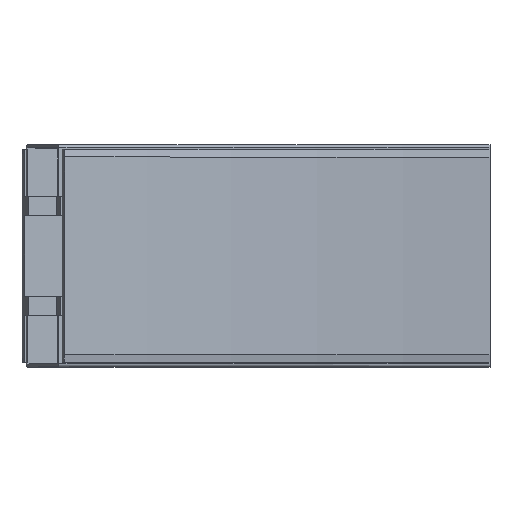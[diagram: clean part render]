
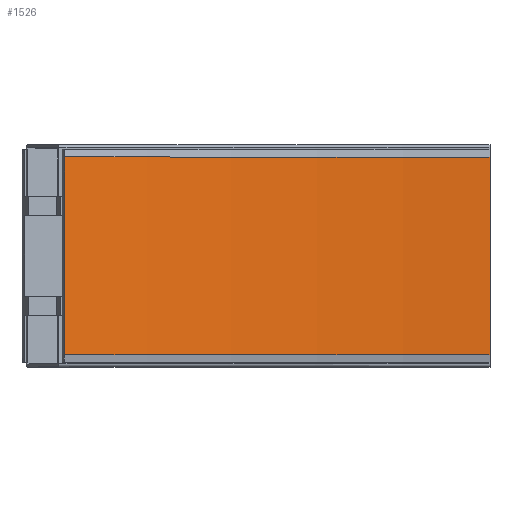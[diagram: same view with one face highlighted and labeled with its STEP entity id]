
A CAD part, top view. The second image highlights one B-rep face of the part: STEP entity #1526.
In plain terms, the highlighted cylindrical face has radius 817.5 mm (diameter 1635 mm), a partial arc.
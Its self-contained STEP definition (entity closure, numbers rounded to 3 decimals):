
#80=CYLINDRICAL_SURFACE('',#1643,817.5);
#149=FACE_OUTER_BOUND('',#236,.T.);
#236=EDGE_LOOP('',(#1052,#1053,#1054,#1055));
#323=CIRCLE('',#1633,817.5);
#328=CIRCLE('',#1642,817.5);
#400=LINE('',#2215,#526);
#401=LINE('',#2216,#527);
#526=VECTOR('',#1808,10.);
#527=VECTOR('',#1809,10.);
#643=VERTEX_POINT('',#2183);
#644=VERTEX_POINT('',#2185);
#652=VERTEX_POINT('',#2209);
#653=VERTEX_POINT('',#2211);
#799=EDGE_CURVE('',#643,#644,#323,.T.);
#813=EDGE_CURVE('',#652,#653,#328,.T.);
#814=EDGE_CURVE('',#643,#652,#400,.T.);
#815=EDGE_CURVE('',#644,#653,#401,.T.);
#1052=ORIENTED_EDGE('',*,*,#814,.T.);
#1053=ORIENTED_EDGE('',*,*,#813,.T.);
#1054=ORIENTED_EDGE('',*,*,#815,.F.);
#1055=ORIENTED_EDGE('',*,*,#799,.F.);
#1526=ADVANCED_FACE('',(#149),#80,.F.);
#1633=AXIS2_PLACEMENT_3D('',#2186,#1777,#1778);
#1642=AXIS2_PLACEMENT_3D('',#2213,#1804,#1805);
#1643=AXIS2_PLACEMENT_3D('',#2214,#1806,#1807);
#1777=DIRECTION('center_axis',(0.,1.,0.));
#1778=DIRECTION('ref_axis',(0.,0.,
-1.));
#1804=DIRECTION('center_axis',(0.,1.,0.));
#1805=DIRECTION('ref_axis',(0.,0.,
-1.));
#1806=DIRECTION('center_axis',(0.,1.,0.));
#1807=DIRECTION('ref_axis',(0.,0.,-1.));
#1808=DIRECTION('',(0.,1.,0.));
#1809=DIRECTION('',(0.,1.,0.));
#2183=CARTESIAN_POINT('',(0.,-65.,42.5));
#2185=CARTESIAN_POINT('',(-279.601,-65.,91.801));
#2186=CARTESIAN_POINT('Origin',(0.,-65.,
860.));
#2209=CARTESIAN_POINT('',(0.,65.,42.5));
#2211=CARTESIAN_POINT('',(-279.601,65.,91.801));
#2213=CARTESIAN_POINT('Origin',(0.,65.,860.));
#2214=CARTESIAN_POINT('Origin',(0.,0.,860.));
#2215=CARTESIAN_POINT('',(0.,-65.,42.5));
#2216=CARTESIAN_POINT('',(-279.601,-65.,91.801));
